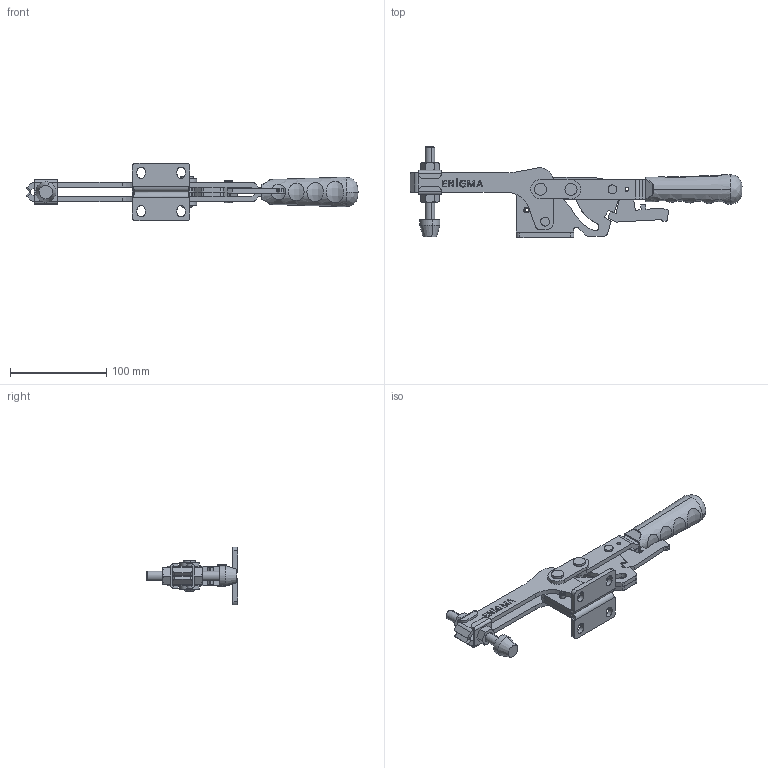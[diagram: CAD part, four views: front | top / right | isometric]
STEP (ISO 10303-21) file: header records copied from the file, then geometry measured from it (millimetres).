
FILE_DESCRIPTION (( 'STEP AP203' ), '1' );
FILE_NAME ('1245_Y.STEP', '2022-11-26T18:14:52', ( '' ), ( '' ), 'SwSTEP 2.0', 'SolidWorks 2023', '' );
FILE_SCHEMA (( 'CONFIG_CONTROL_DESIGN' ));
Length unit declared in the file: millimetre
Products named in the file (17): M10 Somun.STEP.STEP; 1245_Y; 2235_K_HareketKolu.STEP.STEP; 2235_K_Govde.STEP.STEP; Aynalama2235_Govde.STEP.STEP; Bask_ M10.STEP.STEP; C100_Yeni_Tutamak_10x20_Varsay_X2_0131_X0_lan.STEP; spring pin slotted_hd_bsi_Spring Pin ISO 8752 - 6 x 20St.STEP.STEP; 2235_KozaMafsal.STEP.STEP; 2235_K_Mandal3; Aynalama2235_Bask_Kolu.STEP.STEP; 2235_Bask_Kolu.STEP.STEP; M10_Bask_ Grubu.STEP.STEP; Pim_6x24_5.STEP.STEP; Pim_8x33.STEP.STEP; Burc_9_7x6x8.STEP.STEP; M10 Ask_.STEP.STEP
Assembly tree (23 placements, depth 3):
  1245_Y
    M10_Bask_ Grubu.STEP.STEP
      Bask_ M10.STEP.STEP
      M10 Ask_.STEP.STEP  x2
      M10 Somun.STEP.STEP  x2
    2235_K_Govde.STEP.STEP
    2235_Bask_Kolu.STEP.STEP
    2235_KozaMafsal.STEP.STEP  x2
    2235_K_HareketKolu.STEP.STEP  x2
    Pim_8x33.STEP.STEP  x2
    Pim_6x24_5.STEP.STEP  x2
    Burc_9_7x6x8.STEP.STEP  x2
    Aynalama2235_Bask_Kolu.STEP.STEP
    spring pin slotted_hd_bsi_Spring Pin ISO 8752 - 6 x 20St.STEP.STEP
    Aynalama2235_Govde.STEP.STEP
    C100_Yeni_Tutamak_10x20_Varsay_X2_0131_X0_lan.STEP
    2235_K_Mandal3
Bounding box: 344.59 x 94.7 x 60.08 mm (x, y, z)
Volume: 213743.1 mm3; surface area: 109975.8 mm2
Topology: 22 solids, 22 shells, 1112 faces, 2915 edges, 1906 vertices
Faces by surface type: plane 620, cylinder 289, bspline 138, cone 65
Entity records: 33830 total; most frequent: CARTESIAN_POINT 11112, ORIENTED_EDGE 4494, DIRECTION 3994, EDGE_CURVE 2247, VERTEX_POINT 1476, VECTOR 1422, LINE 1422, AXIS2_PLACEMENT_3D 1286
